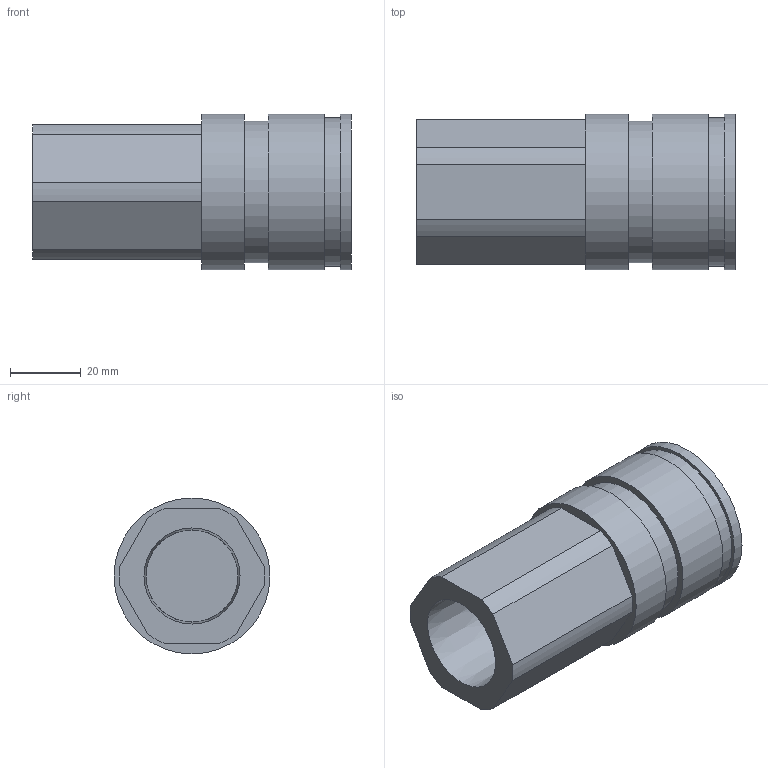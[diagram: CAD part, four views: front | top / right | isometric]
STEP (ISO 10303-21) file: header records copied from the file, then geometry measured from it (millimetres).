
FILE_DESCRIPTION((''),'2;1');
FILE_NAME('Z:\客先\あ行\アオイ\99_その他\3D_DATA\CPR_Series\2CPR-SSV-RC\STEP\203\CPR-SSV-RC3-4.ipt.stp','2008-07-01T11:29:21',(''),(''),'Autodesk Inventor 2009','Autodesk Inventor 2009','');
FILE_SCHEMA(('CONFIG_CONTROL_DESIGN'));
Length unit declared in the file: millimetre
Products named in the file (1): CPR-SSV-RC3-4
Bounding box: 89.9 x 44 x 44 mm (x, y, z)
Volume: 86732.8 mm3; surface area: 20333.8 mm2
Topology: 1 solids, 1 shells, 28 faces, 57 edges, 38 vertices
Faces by surface type: plane 15, cylinder 12, cone 1
Full cylindrical faces by diameter (mm): 29 x1, 40 x1, 42 x1, 44 x3
Entity records: 729 total; most frequent: DIRECTION 134, CARTESIAN_POINT 117, ORIENTED_EDGE 100, AXIS2_PLACEMENT_3D 55, EDGE_CURVE 50, EDGE_LOOP 42, VERTEX_POINT 38, FACE_OUTER_BOUND 28
